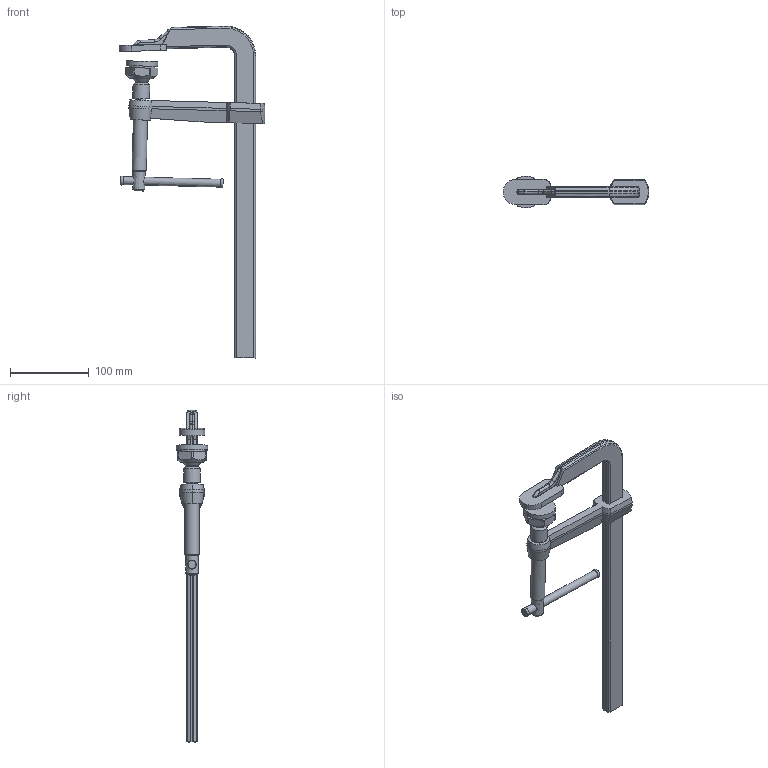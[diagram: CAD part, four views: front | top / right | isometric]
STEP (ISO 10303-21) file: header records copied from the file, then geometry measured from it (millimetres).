
FILE_DESCRIPTION( ('This file contains a STEP AP42 implementation' ,'as created by ZW3D STEP Interface translator.') ,'2;1' );
FILE_NAME( 'M-SGL30.stp' ,'20 630.13 036', (''), ('ZWCAD Software Co.'), 'Version 1.0', 'ZW3D to STEP translator', '' );
FILE_SCHEMA(('AUTOMOTIVE_DESIGN'));
Length unit declared in the file: millimetre
Products named in the file (2): 0; M-SGL30
Bounding box: 185.04 x 39.98 x 420.99 mm (x, y, z)
Volume: 309219.4 mm3; surface area: 78144.5 mm2
Topology: 5 solids, 5 shells, 161 faces, 368 edges, 221 vertices
Faces by surface type: bspline 161
Entity records: 5506 total; most frequent: CARTESIAN_POINT 3176, ORIENTED_EDGE 736, EDGE_CURVE 368, VERTEX_POINT 221, B_SPLINE_CURVE_WITH_KNOTS 221, EDGE_LOOP 171, FACE_OUTER_BOUND 161, ADVANCED_FACE 161
